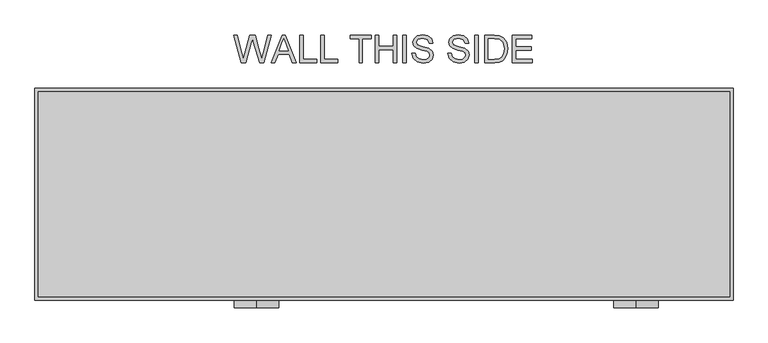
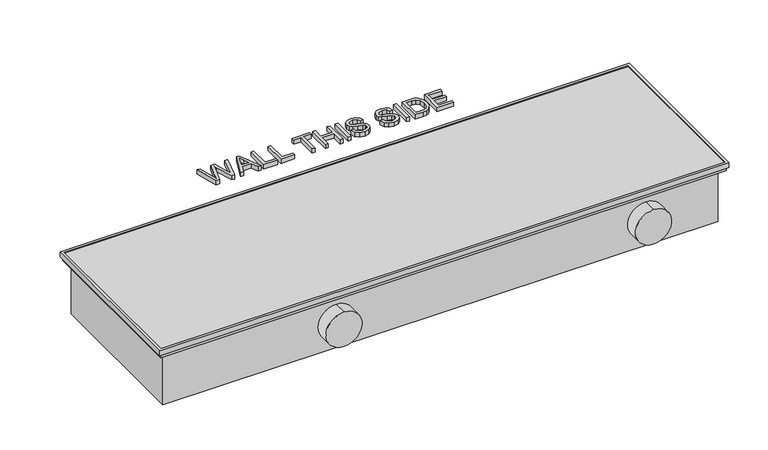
"""IFC4 building model written with IfcOpenShell, lengths in millimetres: unitary equipment geometry, VERANO CVK4P-II : CVK4P-14/35-II."""

from ifc_helpers import new_model, si_unit, point, frame, frame_2d, origin, origin_with_axes, place, context, project, spatial, polyline, circle_curve, trimmed, segment, composite_curve, outline, extrude, faceted_brep, source, transform, mapped, element, save


def unitary_equipment_ad16c2c0(model_context):
    return source(origin(), model_context, "Body", "SolidModel", [
        extrude(outline(composite_curve([segment(trimmed(circle_curve(frame_2d((-79.0, 454.0)), 40.0), [point((-39.0, 454.0))], [point((-119.0, 454.0))], False, "CARTESIAN"), True, "CONTINUOUS"), segment(trimmed(circle_curve(frame_2d((-79.0, 454.0)), 40.0), [point((-119.0, 454.0))], [point((-39.0, 454.0))], False, "CARTESIAN"), True, "CONTINUOUS")], self_intersect=False)), frame((0.0, -205.0, 0.0), z_axis=(0.0, 1.0, 0.0), x_axis=(0.0, 0.0, 1.0)), (0.0, 0.0, 1.0), 30.0),
        extrude(outline(composite_curve([segment(trimmed(circle_curve(frame_2d((-79.0, -230.0)), 40.0), [point((-39.0, -230.0))], [point((-119.0, -230.0))], False, "CARTESIAN"), True, "CONTINUOUS"), segment(trimmed(circle_curve(frame_2d((-79.0, -230.0)), 40.0), [point((-119.0, -230.0))], [point((-39.0, -230.0))], False, "CARTESIAN"), True, "CONTINUOUS")], self_intersect=False)), frame((0.0, -205.0, 0.0), z_axis=(0.0, 1.0, 0.0), x_axis=(0.0, 0.0, 1.0)), (0.0, 0.0, 1.0), 30.0),
        extrude(outline(composite_curve([segment(trimmed(circle_curve(frame_2d((35.0, -71.0)), 10.0), [point((35.0, -61.0))], [point((35.0, -81.0))], False, "CARTESIAN"), True, "CONTINUOUS"), segment(trimmed(circle_curve(frame_2d((35.0, -71.0)), 10.0), [point((35.0, -81.0))], [point((35.0, -61.0))], False, "CARTESIAN"), True, "CONTINUOUS")], self_intersect=False)), frame((-477.0, 0.0, 0.0), z_axis=(1.0, 0.0, 0.0), x_axis=(0.0, 1.0, 0.0)), (0.0, 0.0, 1.0), 70.0),
        extrude(outline(composite_curve([segment(trimmed(circle_curve(frame_2d((143.0, -79.0)), 10.0), [point((143.0, -69.0))], [point((143.0, -89.0))], False, "CARTESIAN"), True, "CONTINUOUS"), segment(trimmed(circle_curve(frame_2d((143.0, -79.0)), 10.0), [point((143.0, -89.0))], [point((143.0, -69.0))], False, "CARTESIAN"), True, "CONTINUOUS")], self_intersect=False)), frame((-477.0, 0.0, 0.0), z_axis=(1.0, 0.0, 0.0), x_axis=(0.0, 1.0, 0.0)), (0.0, 0.0, 1.0), 70.0),
        extrude(outline(polyline([(-417.0, -25.0), (-417.0, -5.0), (-407.0, -5.0), (-407.0, -25.0), (-417.0, -25.0)])), frame((0.0, 0.0, -130.0), z_axis=(0.0, 0.0, 1.0), x_axis=(1.0, 0.0, 0.0)), (0.0, 0.0, 1.0), 10.0),
        faceted_brep([(623.0, -185.0, -16.5), (623.0, -185.0, 1.5), (623.0, 185.0, 1.5), (623.0, 185.0, -16.5), (624.0, -186.0, 0.0), (624.0, -186.0, -16.5), (624.0, 186.0, -16.5), (624.0, 186.0, 0.0), (628.0, -190.0, -10.0), (628.0, -190.0, 0.0), (628.0, 190.0, 0.0), (628.0, 190.0, -10.0), (629.0, -191.0, 1.5), (629.0, -191.0, -10.0), (629.0, 191.0, -10.0), (629.0, 191.0, 1.5), (-623.0, 185.0, 1.5), (-623.0, 185.0, -16.5), (-624.0, 186.0, -16.5), (-624.0, 186.0, 0.0), (-628.0, 190.0, 0.0), (-628.0, 190.0, -10.0), (-629.0, 191.0, -10.0), (-629.0, 191.0, 1.5), (-623.0, -185.0, 1.5), (-623.0, -185.0, -16.5), (-624.0, -186.0, -16.5), (-624.0, -186.0, 0.0), (-628.0, -190.0, 0.0), (-628.0, -190.0, -10.0), (-629.0, -191.0, -10.0), (-629.0, -191.0, 1.5)], [[[0, 1, 2, 3]], [[4, 5, 6, 7]], [[8, 9, 10, 11]], [[12, 13, 14, 15]], [[3, 2, 16, 17]], [[7, 6, 18, 19]], [[11, 10, 20, 21]], [[15, 14, 22, 23]], [[17, 16, 24, 25]], [[19, 18, 26, 27]], [[21, 20, 28, 29]], [[23, 22, 30, 31]], [[15, 23, 31, 12], [1, 24, 16, 2]], [[25, 24, 1, 0]], [[5, 26, 18, 6], [3, 17, 25, 0]], [[27, 26, 5, 4]], [[9, 28, 20, 10], [7, 19, 27, 4]], [[29, 28, 9, 8]], [[13, 30, 22, 14], [11, 21, 29, 8]], [[31, 30, 13, 12]]]),
        extrude(outline(composite_curve([segment(trimmed(circle_curve(frame_2d((23.0, -36.0)), 10.0), [point((23.0, -26.0))], [point((23.0, -46.0))], False, "CARTESIAN"), True, "CONTINUOUS"), segment(trimmed(circle_curve(frame_2d((23.0, -36.0)), 10.0), [point((23.0, -46.0))], [point((23.0, -26.0))], False, "CARTESIAN"), True, "CONTINUOUS")], self_intersect=False)), frame((-477.0, 0.0, 0.0), z_axis=(1.0, 0.0, 0.0), x_axis=(0.0, 1.0, 0.0)), (0.0, 0.0, 1.0), 70.0),
        extrude(outline(composite_curve([segment(trimmed(circle_curve(frame_2d((115.0, -97.0)), 10.0), [point((115.0, -87.0))], [point((115.0, -107.0))], False, "CARTESIAN"), True, "CONTINUOUS"), segment(trimmed(circle_curve(frame_2d((115.0, -97.0)), 10.0), [point((115.0, -107.0))], [point((115.0, -87.0))], False, "CARTESIAN"), True, "CONTINUOUS")], self_intersect=False)), frame((-477.0, 0.0, 0.0), z_axis=(1.0, 0.0, 0.0), x_axis=(0.0, 1.0, 0.0)), (0.0, 0.0, 1.0), 70.0),
        extrude(outline(polyline([(-256.9591346, 237.0), (-270.3846154, 286.2307692), (-264.0384615, 286.2307692), (-256.25, 253.875), (-253.8461538, 243.8870192), (-251.2740385, 252.7211538), (-241.5144231, 286.2307692), (-232.3677885, 286.2307692), (-225.2764423, 261.9399038), (-220.0, 243.8870192), (-217.6682692, 253.5865385), (-209.8076923, 286.2307692), (-203.4615385, 286.2307692), (-216.8990385, 237.0), (-223.4735577, 237.0), (-235.2764423, 274.9807692), (-236.9230769, 280.28125), (-238.7740385, 273.8990385), (-249.53125, 237.0), (-256.9591346, 237.0)])), origin_with_axes(), (0.0, 0.0, 1.0), 10.0),
        extrude(outline(polyline([(-203.0408654, 237.0), (-183.3894231, 286.2307692), (-178.1490385, 286.2307692), (-158.4975962, 237.0), (-165.0, 237.0), (-170.6370192, 252.3846154), (-190.9134615, 252.3846154), (-196.5384615, 237.0), (-203.0408654, 237.0)]), holes=[polyline([(-188.6538462, 258.5384615), (-172.8846154, 258.5384615), (-177.3197115, 270.6418269), (-180.7692308, 280.0769231), (-183.8341346, 271.6995192), (-188.6538462, 258.5384615)])]), origin_with_axes(), (0.0, 0.0, 1.0), 10.0),
        extrude(outline(polyline([(-151.9230769, 237.0), (-151.9230769, 286.2307692), (-145.7692308, 286.2307692), (-145.7692308, 243.1538462), (-121.1538462, 243.1538462), (-121.1538462, 237.0), (-151.9230769, 237.0)])), origin_with_axes(), (0.0, 0.0, 1.0), 10.0),
        extrude(outline(polyline([(-114.2307692, 237.0), (-114.2307692, 286.2307692), (-108.0769231, 286.2307692), (-108.0769231, 243.1538462), (-83.4615385, 243.1538462), (-83.4615385, 237.0), (-114.2307692, 237.0)])), origin_with_axes(), (0.0, 0.0, 1.0), 10.0),
        extrude(outline(polyline([(-45.0, 237.0), (-45.0, 280.0769231), (-61.1538462, 280.0769231), (-61.1538462, 286.2307692), (-22.6923077, 286.2307692), (-22.6923077, 280.0769231), (-38.8461538, 280.0769231), (-38.8461538, 237.0), (-45.0, 237.0)])), origin_with_axes(), (0.0, 0.0, 1.0), 10.0),
        extrude(outline(polyline([(-15.7692308, 237.0), (-15.7692308, 286.2307692), (-9.6153846, 286.2307692), (-9.6153846, 266.2307692), (16.5384615, 266.2307692), (16.5384615, 286.2307692), (22.6923077, 286.2307692), (22.6923077, 237.0), (16.5384615, 237.0), (16.5384615, 260.0769231), (-9.6153846, 260.0769231), (-9.6153846, 237.0), (-15.7692308, 237.0)])), origin_with_axes(), (0.0, 0.0, 1.0), 10.0),
        extrude(outline(polyline([(34.2307692, 237.0), (34.2307692, 286.2307692), (40.3846154, 286.2307692), (40.3846154, 237.0), (34.2307692, 237.0)])), origin_with_axes(), (0.0, 0.0, 1.0), 10.0),
        extrude(outline(polyline([(50.3846154, 253.9230769), (56.5384615, 253.9230769), (58.5216346, 247.7632212), (63.3653846, 243.8689904), (70.7451923, 242.3846154), (77.1754808, 243.5084135), (81.328125, 246.5973558), (82.6923077, 250.7259615), (81.6706731, 254.5661058), (77.4879808, 257.3605769), (68.5276442, 259.7103365), (58.8822115, 262.7451923), (53.6478365, 267.3245192), (51.9230769, 273.4423077), (54.0564904, 280.4074519), (60.2884615, 285.3233173), (69.4110577, 287.0), (79.1466346, 285.2451923), (85.6370192, 280.0889423), (88.0769231, 272.3846154), (81.9230769, 272.3846154), (78.4375, 278.7067308), (69.6514423, 280.8461538), (60.8413462, 278.7307692), (58.0769231, 273.6225962), (60.0360577, 269.3557692), (70.0841346, 265.9182692), (80.9735577, 262.8293269), (86.9290865, 257.8413462), (88.8461538, 250.8822115), (86.640625, 243.5204327), (80.2944712, 238.1478365), (70.9855769, 236.2307692), (59.9939904, 238.2980769), (53.0408654, 244.5240385), (50.3846154, 253.9230769)])), origin_with_axes(), (0.0, 0.0, 1.0), 10.0),
        extrude(outline(polyline([(115.0, 253.9230769), (121.1538462, 253.9230769), (123.1370192, 247.7632212), (127.9807692, 243.8689904), (135.3605769, 242.3846154), (141.7908654, 243.5084135), (145.9435096, 246.5973558), (147.3076923, 250.7259615), (146.2860577, 254.5661058), (142.1033654, 257.3605769), (133.1430288, 259.7103365), (123.4975962, 262.7451923), (118.2632212, 267.3245192), (116.5384615, 273.4423077), (118.671875, 280.4074519), (124.9038462, 285.3233173), (134.0264423, 287.0), (143.7620192, 285.2451923), (150.2524038, 280.0889423), (152.6923077, 272.3846154), (146.5384615, 272.3846154), (143.0528846, 278.7067308), (134.2668269, 280.8461538), (125.4567308, 278.7307692), (122.6923077, 273.6225962), (124.6514423, 269.3557692), (134.6995192, 265.9182692), (145.5889423, 262.8293269), (151.5444712, 257.8413462), (153.4615385, 250.8822115), (151.2560096, 243.5204327), (144.9098558, 238.1478365), (135.6009615, 236.2307692), (124.609375, 238.2980769), (117.65625, 244.5240385), (115.0, 253.9230769)])), origin_with_axes(), (0.0, 0.0, 1.0), 10.0),
        extrude(outline(polyline([(163.4615385, 237.0), (163.4615385, 286.2307692), (169.6153846, 286.2307692), (169.6153846, 237.0), (163.4615385, 237.0)])), origin_with_axes(), (0.0, 0.0, 1.0), 10.0),
        extrude(outline(polyline([(181.9230769, 237.0), (181.9230769, 286.2307692), (198.90625, 286.2307692), (207.6923077, 285.5216346), (214.9278846, 282.0), (220.7572115, 273.5865385), (222.6923077, 261.8798077), (221.3822115, 251.9459135), (218.0168269, 244.7764423), (213.5216346, 240.3112981), (207.6382212, 237.8413462), (199.7235577, 237.0), (181.9230769, 237.0)]), holes=[polyline([(188.0769231, 243.1538462), (198.9663462, 243.1538462), (206.8870192, 244.0432692), (211.4543269, 246.5552885), (215.1983173, 252.6670673), (216.5384615, 261.9759615), (213.9122596, 273.6346154), (207.5240385, 279.0913462), (198.7980769, 280.0769231), (188.0769231, 280.0769231), (188.0769231, 243.1538462)])]), origin_with_axes(), (0.0, 0.0, 1.0), 10.0),
        extrude(outline(polyline([(231.1538462, 237.0), (231.1538462, 286.2307692), (266.5384615, 286.2307692), (266.5384615, 280.0769231), (237.3076923, 280.0769231), (237.3076923, 265.4615385), (265.0, 265.4615385), (265.0, 259.3076923), (237.3076923, 259.3076923), (237.3076923, 243.1538462), (267.3076923, 243.1538462), (267.3076923, 237.0), (231.1538462, 237.0)])), origin_with_axes(), (0.0, 0.0, 1.0), 10.0),
        extrude(outline(polyline([(563.0, 175.0), (563.0, -162.0), (-407.0, -162.0), (-407.0, 175.0), (563.0, 175.0)])), frame((0.0, 0.0, -139.0), z_axis=(0.0, 0.0, 1.0), x_axis=(1.0, 0.0, 0.0)), (0.0, 0.0, 1.0), 121.0),
        extrude(outline(polyline([(625.0, 187.0), (625.0, -187.0), (-625.0, -187.0), (-625.0, 187.0), (625.0, 187.0)])), frame((0.0, 0.0, -18.0), z_axis=(0.0, 0.0, 1.0), x_axis=(1.0, 0.0, 0.0)), (0.0, 0.0, 1.0), 18.0),
        faceted_brep([(612.0, -174.0, -17.0), (612.0, 174.0, -17.0), (612.0, 174.0, -139.0), (612.0, -174.0, -139.0), (625.0, -187.0, 0.0), (625.0, -187.0, -18.0), (625.0, 187.0, -18.0), (625.0, 187.0, 0.0), (624.0, -186.0, -17.0), (624.0, -186.0, 0.0), (624.0, 186.0, 0.0), (624.0, 186.0, -17.0), (613.0, -175.0, -18.0), (613.0, -175.0, -140.0), (613.0, 175.0, -140.0), (613.0, 175.0, -18.0), (-625.0, 187.0, -18.0), (-625.0, 187.0, 0.0), (-624.0, 186.0, 0.0), (-624.0, 186.0, -17.0), (-613.0, 175.0, -140.0), (-613.0, 175.0, -18.0), (-612.0, 174.0, -17.0), (-612.0, 174.0, -139.0), (-625.0, -187.0, -18.0), (-625.0, -187.0, 0.0), (-624.0, -186.0, 0.0), (-624.0, -186.0, -17.0), (-613.0, -175.0, -140.0), (-613.0, -175.0, -18.0), (-612.0, -174.0, -17.0), (-612.0, -174.0, -139.0)], [[[0, 1, 2, 3]], [[4, 5, 6, 7]], [[8, 9, 10, 11]], [[12, 13, 14, 15]], [[7, 6, 16, 17]], [[11, 10, 18, 19]], [[15, 14, 20, 21]], [[1, 22, 23, 2]], [[17, 16, 24, 25]], [[19, 18, 26, 27]], [[21, 20, 28, 29]], [[22, 30, 31, 23]], [[8, 11, 19, 27], [1, 0, 30, 22]], [[5, 4, 25, 24]], [[4, 7, 17, 25], [10, 9, 26, 18]], [[9, 8, 27, 26]], [[6, 5, 24, 16], [12, 15, 21, 29]], [[13, 12, 29, 28]], [[14, 13, 28, 20]], [[30, 0, 3, 31]], [[3, 2, 23, 31]]]),
    ])


if __name__ == "__main__":
    model = new_model("IFC4")
    model_context = context("Model", 3, world=origin())
    ifc_project = project(units=[si_unit("LENGTHUNIT", "METRE", prefix="MILLI")], contexts=[model_context])
    site = spatial("IfcSite", under=ifc_project)
    building = spatial("IfcBuilding", under=site)
    placement = place(None, origin())
    unitary_equipment_shape = unitary_equipment_ad16c2c0(model_context)
    element("IfcUnitaryEquipment", 1, ObjectType="VERANO CVK4P-II : CVK4P-14/35-II", at=placement, inside=building, context=model_context, shape_type="MappedRepresentation", body=[
        mapped(unitary_equipment_shape, transform((0.0, 0.0, 0.0), x_axis=(1.0, 0.0, 0.0), y_axis=(0.0, 1.0, 0.0), z_axis=(0.0, 0.0, 1.0))),
    ])
    save(model, "model.ifc")
